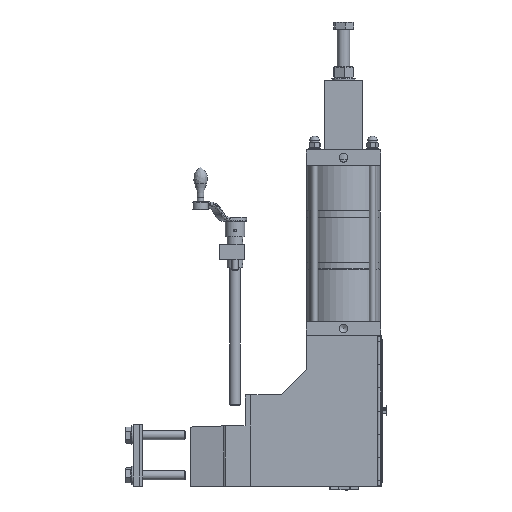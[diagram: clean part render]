
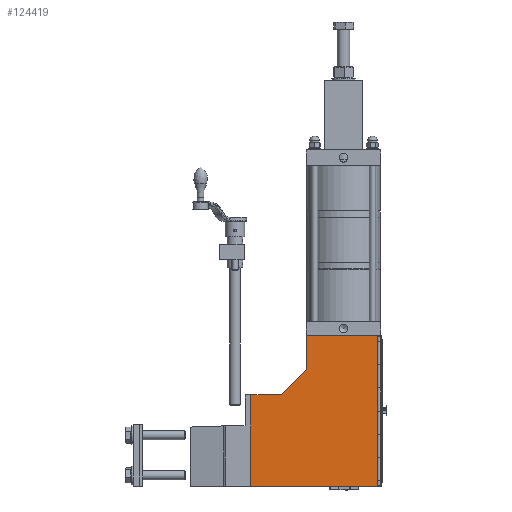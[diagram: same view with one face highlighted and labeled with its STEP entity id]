
A CAD part, left-side view. The second image highlights one B-rep face of the part: STEP entity #124419.
In plain terms, the highlighted planar face has unit normal (-1, 0, 0).
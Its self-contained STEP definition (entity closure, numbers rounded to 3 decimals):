
#8944=LINE('',#161732,#19831);
#9096=LINE('',#162106,#19983);
#9183=LINE('',#162420,#20070);
#9184=LINE('',#162422,#20071);
#9185=LINE('',#162424,#20072);
#9186=LINE('',#162426,#20073);
#9187=LINE('',#162427,#20074);
#19831=VECTOR('',#138528,10.);
#19983=VECTOR('',#138828,10.);
#20070=VECTOR('',#139155,10.);
#20071=VECTOR('',#139156,10.);
#20072=VECTOR('',#139157,10.);
#20073=VECTOR('',#139158,10.);
#20074=VECTOR('',#139159,10.);
#31844=FACE_OUTER_BOUND('',#38658,.T.);
#38658=EDGE_LOOP('',(#79363,#79364,#79365,#79366,#79367,#79368,#79369));
#47975=VERTEX_POINT('',#161729);
#47976=VERTEX_POINT('',#161731);
#48124=VERTEX_POINT('',#162104);
#48231=VERTEX_POINT('',#162419);
#48232=VERTEX_POINT('',#162421);
#48233=VERTEX_POINT('',#162423);
#48234=VERTEX_POINT('',#162425);
#60298=EDGE_CURVE('',#47976,#47975,#8944,.T.);
#60483=EDGE_CURVE('',#48124,#47975,#9096,.T.);
#60635=EDGE_CURVE('',#48231,#48124,#9183,.T.);
#60636=EDGE_CURVE('',#48232,#48231,#9184,.T.);
#60637=EDGE_CURVE('',#48233,#48232,#9185,.T.);
#60638=EDGE_CURVE('',#48234,#48233,#9186,.T.);
#60639=EDGE_CURVE('',#47976,#48234,#9187,.T.);
#79363=ORIENTED_EDGE('',*,*,#60298,.T.);
#79364=ORIENTED_EDGE('',*,*,#60483,.F.);
#79365=ORIENTED_EDGE('',*,*,#60635,.F.);
#79366=ORIENTED_EDGE('',*,*,#60636,.F.);
#79367=ORIENTED_EDGE('',*,*,#60637,.F.);
#79368=ORIENTED_EDGE('',*,*,#60638,.F.);
#79369=ORIENTED_EDGE('',*,*,#60639,.F.);
#114389=PLANE('',#132194);
#124419=ADVANCED_FACE('',(#31844),#114389,.T.);
#132194=AXIS2_PLACEMENT_3D('',#162418,#139153,#139154);
#138528=DIRECTION('',(0.,0.,1.));
#138828=DIRECTION('',(0.,-1.,0.));
#139153=DIRECTION('center_axis',(-1.,0.,0.));
#139154=DIRECTION('ref_axis',(0.,-1.,0.));
#139155=DIRECTION('',(0.,0.,1.));
#139156=DIRECTION('',(0.,-0.707,0.707));
#139157=DIRECTION('',(0.,-1.,0.));
#139158=DIRECTION('',(0.,0.,1.));
#139159=DIRECTION('',(0.,1.,0.));
#161729=CARTESIAN_POINT('',(-47.5,-164.,195.));
#161731=CARTESIAN_POINT('',(-47.5,-164.,0.));
#161732=CARTESIAN_POINT('',(-47.5,-164.,142.175));
#162104=CARTESIAN_POINT('',(-47.5,-72.5,195.));
#162106=CARTESIAN_POINT('',(-47.5,-72.5,195.));
#162418=CARTESIAN_POINT('Origin',(-47.5,-91.651,89.349));
#162419=CARTESIAN_POINT('',(-47.5,-72.5,150.5));
#162420=CARTESIAN_POINT('',(-47.5,-72.5,150.5));
#162421=CARTESIAN_POINT('',(-47.5,-40.,118.));
#162422=CARTESIAN_POINT('',(-47.5,-40.,118.));
#162423=CARTESIAN_POINT('',(-47.5,0.,118.));
#162424=CARTESIAN_POINT('',(-47.5,0.,118.));
#162425=CARTESIAN_POINT('',(-47.5,0.,0.));
#162426=CARTESIAN_POINT('',(-47.5,0.,0.));
#162427=CARTESIAN_POINT('',(-47.5,-167.5,0.));
